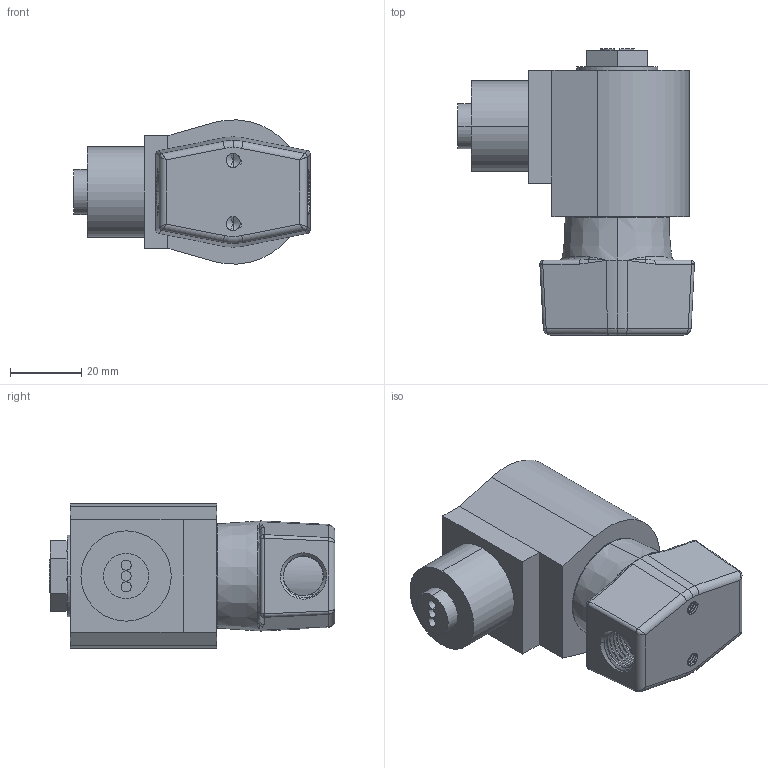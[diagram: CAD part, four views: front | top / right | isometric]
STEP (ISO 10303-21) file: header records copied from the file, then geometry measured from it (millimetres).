
FILE_DESCRIPTION (( 'STEP AP203' ), '1' );
FILE_NAME ('S301G_9B.STEP', '2021-02-03T21:46:42', ( '' ), ( '' ), 'SwSTEP 2.0', 'SolidWorks 2020', '' );
FILE_SCHEMA (( 'CONFIG_CONTROL_DESIGN' ));
Length unit declared in the file: inch
Products named in the file (1): S301G_9B
Bounding box: 66.65 x 80.49 x 40.57 mm (x, y, z)
Volume: 100993.2 mm3; surface area: 17782.8 mm2
Topology: 1 solids, 1 shells, 315 faces, 917 edges, 584 vertices
Faces by surface type: cylinder 137, bspline 96, plane 53, cone 11, torus 10, sphere 8
Entity records: 22903 total; most frequent: CARTESIAN_POINT 15758, ORIENTED_EDGE 1810, DIRECTION 1090, EDGE_CURVE 905, VERTEX_POINT 584, AXIS2_PLACEMENT_3D 392, EDGE_LOOP 331, FACE_OUTER_BOUND 315
